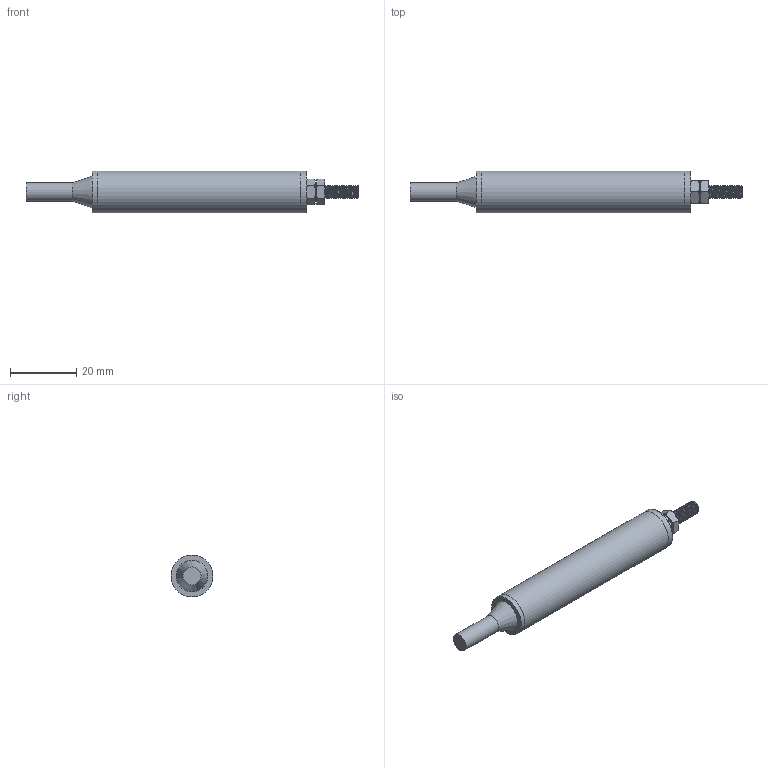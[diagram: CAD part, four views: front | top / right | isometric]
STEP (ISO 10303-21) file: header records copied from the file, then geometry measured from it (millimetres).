
FILE_DESCRIPTION(/* description */ (''),/* implementation_level */ '2;1');
FILE_NAME(/* name */ 'KPM12-10.stp',/* time_stamp */ '2023-10-18T13:03:13+08:00',/* author */ (''),/* organization */ (''),/* preprocessor_version */ 'ST-DEVELOPER v16',/* originating_system */ 'SIEMENS PLM Software NX 10.0',/* authorisation */ '');
FILE_SCHEMA (('AUTOMOTIVE_DESIGN { 1 0 10303 214 3 1 1 1 }'));
Length unit declared in the file: millimetre
Products named in the file (1): Admi1C1857C3p5il
Bounding box: 100.5 x 12.7 x 12.7 mm (x, y, z)
Volume: 8979.6 mm3; surface area: 4368.2 mm2
Topology: 5 solids, 6 shells, 90 faces, 232 edges, 154 vertices
Faces by surface type: cylinder 31, plane 27, torus 25, bspline 6, cone 1
Full cylindrical faces by diameter (mm): 4 x22, 5.5 x1, 12.7 x3
Entity records: 10508 total; most frequent: CARTESIAN_POINT 8980, ORIENTED_EDGE 316, DIRECTION 257, EDGE_CURVE 158, VERTEX_POINT 109, AXIS2_PLACEMENT_3D 108, EDGE_LOOP 81, B_SPLINE_CURVE_WITH_KNOTS 73
